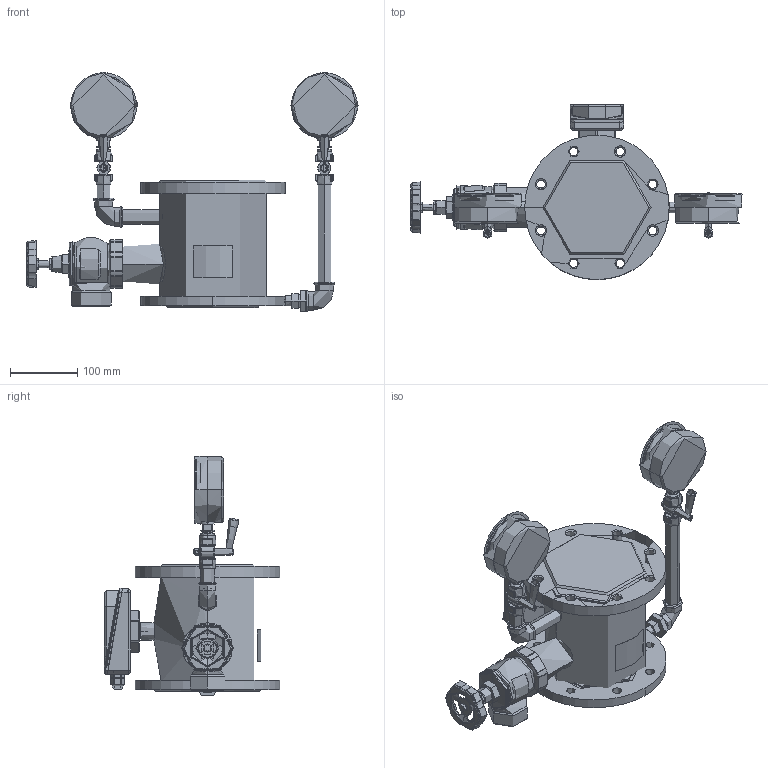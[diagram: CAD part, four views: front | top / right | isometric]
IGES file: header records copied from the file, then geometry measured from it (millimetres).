
Start section: File generated by T-FLEX CAD Version (null)
Global section: file name:           DN 100 3D.igs; native system: T-FLEX CAD; date: 211014.072350; units: millimetre
Bounding box: 494 x 261.09 x 356.5 mm (x, y, z)
Volume: 5854174.3 mm3; surface area: 615919 mm2
Topology: 22 solids, 31 shells, 2185 faces, 5293 edges, 3112 vertices
Faces by surface type: cylinder 797, plane 500, bspline 444, cone 208, revolution 190, sphere 46
